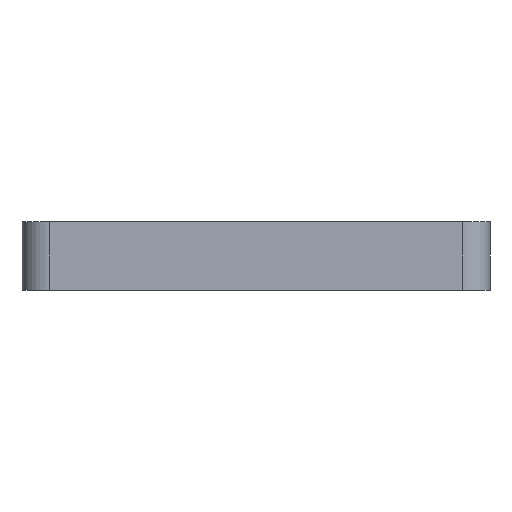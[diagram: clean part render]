
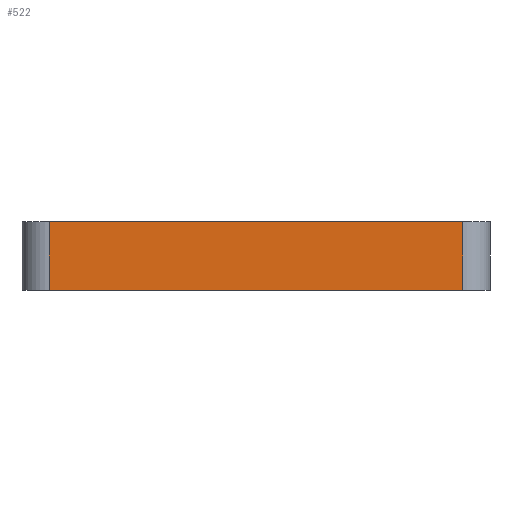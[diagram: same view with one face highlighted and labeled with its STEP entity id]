
A CAD part, left-side view. The second image highlights one B-rep face of the part: STEP entity #522.
In plain terms, the highlighted planar face has unit normal (-1, 0, 0).
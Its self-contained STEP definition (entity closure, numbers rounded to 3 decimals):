
#241 = CARTESIAN_POINT ( 'NONE',  ( -42.65, -37.65, 0. ) ) ;
#256 = AXIS2_PLACEMENT_3D ( 'NONE', #6702, #4010, #4690 ) ;
#281 = DIRECTION ( 'NONE',  ( 0., 0., -1. ) ) ;
#339 = LINE ( 'NONE', #1053, #6199 ) ;
#522 = ADVANCED_FACE ( 'NONE', ( #6495 ), #8351, .F. ) ;
#872 = LINE ( 'NONE', #7494, #6749 ) ;
#1053 = CARTESIAN_POINT ( 'NONE',  ( -42.65, -37.65, 12.5 ) ) ;
#1453 = CARTESIAN_POINT ( 'NONE',  ( -42.65, 37.65, 0. ) ) ;
#1700 = DIRECTION ( 'NONE',  ( 0., -1., 0. ) ) ;
#1918 = ORIENTED_EDGE ( 'NONE', *, *, #6806, .F. ) ;
#2120 = EDGE_CURVE ( 'NONE', #5373, #6622, #872, .T. ) ;
#2398 = LINE ( 'NONE', #4391, #3711 ) ;
#2456 = CARTESIAN_POINT ( 'NONE',  ( -42.65, -37.65, 12.5 ) ) ;
#2652 = VERTEX_POINT ( 'NONE', #241 ) ;
#3421 = ORIENTED_EDGE ( 'NONE', *, *, #7527, .T. ) ;
#3711 = VECTOR ( 'NONE', #5640, 1000. ) ;
#4010 = DIRECTION ( 'NONE',  ( 1., 0., 0. ) ) ;
#4391 = CARTESIAN_POINT ( 'NONE',  ( -42.65, -42.65, 0. ) ) ;
#4690 = DIRECTION ( 'NONE',  ( 0., 0., -1. ) ) ;
#5122 = EDGE_CURVE ( 'NONE', #6622, #2652, #2398, .T. ) ;
#5347 = ORIENTED_EDGE ( 'NONE', *, *, #5122, .T. ) ;
#5373 = VERTEX_POINT ( 'NONE', #6828 ) ;
#5640 = DIRECTION ( 'NONE',  ( 0., -1., 0. ) ) ;
#5938 = ORIENTED_EDGE ( 'NONE', *, *, #2120, .T. ) ;
#6199 = VECTOR ( 'NONE', #6878, 1000. ) ;
#6495 = FACE_OUTER_BOUND ( 'NONE', #7008, .T. ) ;
#6622 = VERTEX_POINT ( 'NONE', #1453 ) ;
#6702 = CARTESIAN_POINT ( 'NONE',  ( -42.65, -42.65, 12.5 ) ) ;
#6749 = VECTOR ( 'NONE', #281, 1000. ) ;
#6806 = EDGE_CURVE ( 'NONE', #5373, #6914, #7571, .T. ) ;
#6828 = CARTESIAN_POINT ( 'NONE',  ( -42.65, 37.65, 12.5 ) ) ;
#6878 = DIRECTION ( 'NONE',  ( 0., 0., 1. ) ) ;
#6889 = VECTOR ( 'NONE', #1700, 1000. ) ;
#6914 = VERTEX_POINT ( 'NONE', #2456 ) ;
#6936 = CARTESIAN_POINT ( 'NONE',  ( -42.65, -42.65, 12.5 ) ) ;
#7008 = EDGE_LOOP ( 'NONE', ( #5347, #3421, #1918, #5938 ) ) ;
#7494 = CARTESIAN_POINT ( 'NONE',  ( -42.65, 37.65, 12.5 ) ) ;
#7527 = EDGE_CURVE ( 'NONE', #2652, #6914, #339, .T. ) ;
#7571 = LINE ( 'NONE', #6936, #6889 ) ;
#8351 = PLANE ( 'NONE',  #256 ) ;
